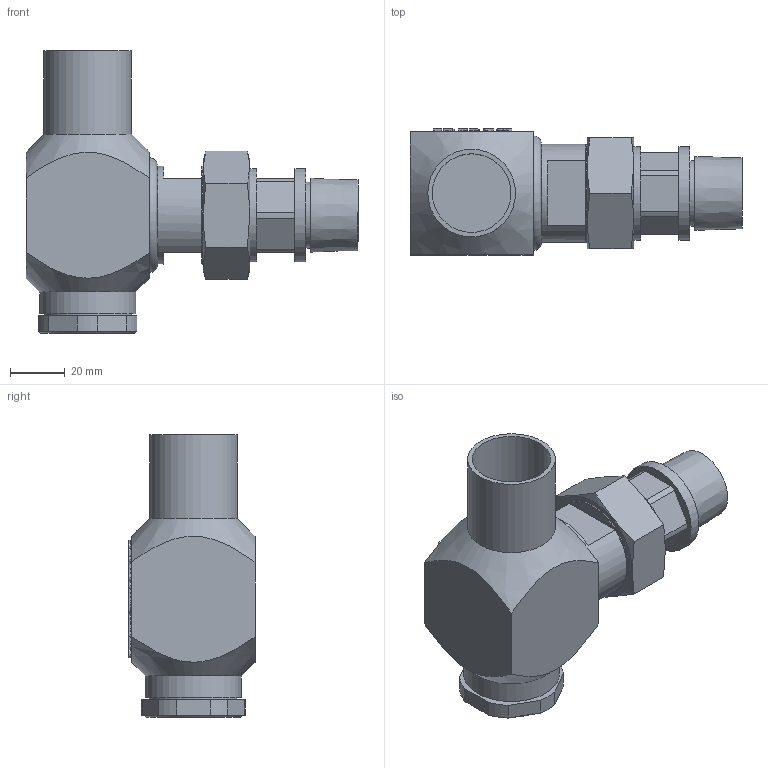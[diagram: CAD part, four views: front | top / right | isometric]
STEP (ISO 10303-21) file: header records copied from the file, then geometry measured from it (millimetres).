
FILE_DESCRIPTION(/* description */ (''),/* implementation_level */ '2;1');
FILE_NAME(/* name */ 'P:\Accessories\A-3_4-NPT-SG-28L\A-3_4-NPT-SG-28L.stp',/* time_stamp */ '2017-12-14T08:34:33+01:00',/* author */ ('neufeld'),/* organization */ (''),/* preprocessor_version */ 'ST-DEVELOPER v16.1',/* originating_system */ 'Autodesk Inventor 2016',/* authorisation */ '');
FILE_SCHEMA (('AUTOMOTIVE_DESIGN { 1 0 10303 214 3 1 1 }'));
Length unit declared in the file: millimetre
Products named in the file (1): A-3_4_NPT-SG-28L_AG-Kunde
Bounding box: 121.16 x 46 x 103.05 mm (x, y, z)
Volume: 191280.5 mm3; surface area: 31509.4 mm2
Topology: 1 solids, 3 shells, 1402 faces, 3799 edges, 2532 vertices
Faces by surface type: plane 835, bspline 524, cylinder 32, cone 8, torus 3
Full cylindrical faces by diameter (mm): 20.928 x1, 23.972 x1, 24.2 x1, 28.7 x1, 30.9 x2, 32 x1, 32.15 x1, 34.119 x2, 35 x1, 35.7 x1, 35.9 x1, 36.6 x1
Entity records: 47249 total; most frequent: CARTESIAN_POINT 15501, ORIENTED_EDGE 7540, DIRECTION 4512, EDGE_CURVE 3764, LINE 2598, VECTOR 2598, VERTEX_POINT 2522, EDGE_LOOP 1560
